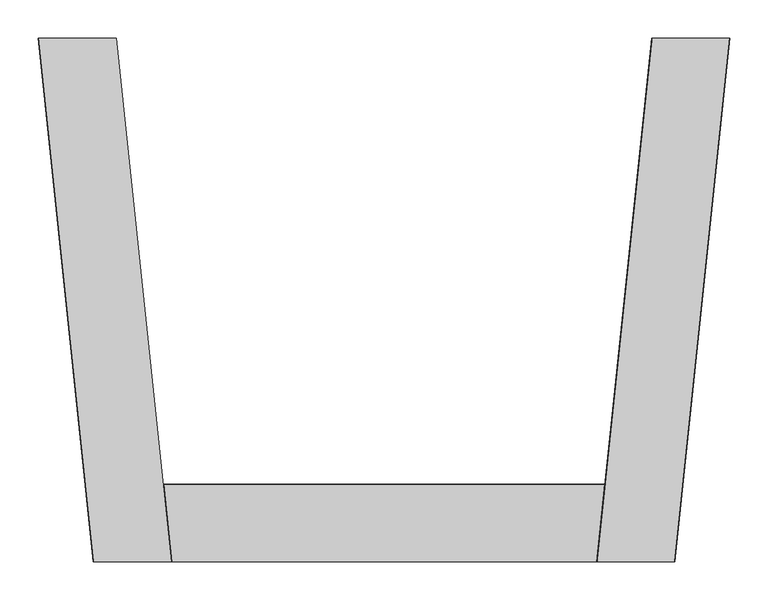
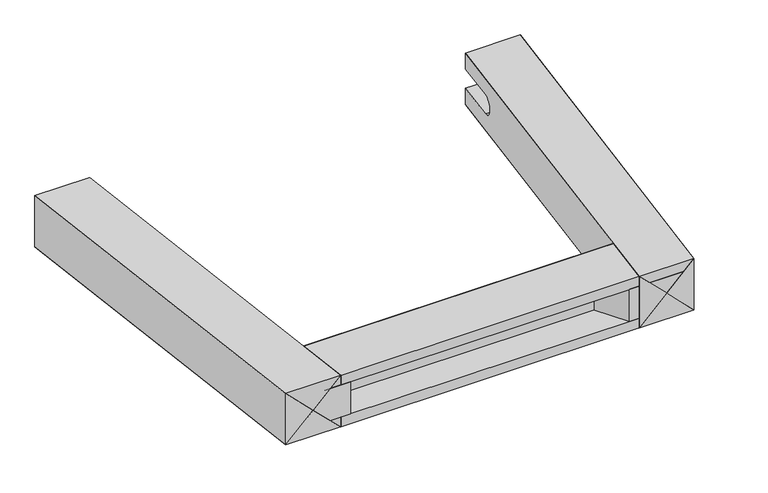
"""IFC4 building model written with IfcOpenShell, lengths in millimetres: proxy geometry, IMPRESS^TABLE 2_30in BASE_TABLE BASE ASSY 48X28X501."""

from ifc_helpers import new_model, si_unit, frame, origin, place, context, project, spatial, polyline, circle_curve, ellipse_curve, outline, extrude, faceted_brep, source, transform, mapped, element, save
from ifc_brep_helpers import plane_surface, revolved_surface, advanced_brep


def generic_models_6bebf737(model_context):
    return source(origin(), model_context, "Body", "SolidModel", [
        faceted_brep([(-350.9208433, 685.8, -50.8), (-402.0006639, 685.8, 0.0), (-329.9201794, 0.0, 0.0), (-278.8403588, 0.0, -50.8), (-381.0, 0.0, -50.8), (-453.0804845, 685.8, -50.8)], [[[0, 1, 2, 3]], [[3, 2, 4]], [[1, 5, 4, 2]], [[1, 0, 5]], [[3, 4, 5, 0]]]),
        faceted_brep([(-381.0, 0.0, 50.8), (-329.9201794, 0.0, 0.0), (-402.0006639, 685.8, 0.0), (-453.0804845, 685.8, 50.8), (-453.0804845, 685.8, -50.8), (-381.0, 0.0, -50.8)], [[[0, 1, 2, 3]], [[3, 2, 4]], [[1, 5, 4, 2]], [[1, 0, 5]], [[5, 0, 3, 4]]]),
        faceted_brep([(-278.8403588, 0.0, 50.8), (-329.9201794, 0.0, 0.0), (-402.0006639, 685.8, 0.0), (-350.9208433, 685.8, 50.8), (-453.0804845, 685.8, 50.8), (-381.0, 0.0, 50.8)], [[[0, 1, 2, 3]], [[3, 2, 4]], [[1, 5, 4, 2]], [[1, 0, 5]], [[5, 0, 3, 4]]]),
        faceted_brep([(453.0804845, 685.8, 50.8), (402.0006639, 685.8, 0.0), (329.9201794, 0.0, 0.0), (381.0, 0.0, 50.8), (381.0, 0.0, -50.8), (453.0804845, 685.8, -50.8)], [[[0, 1, 2, 3]], [[3, 2, 4]], [[1, 5, 4, 2]], [[1, 0, 5]], [[5, 0, 3, 4]]]),
        advanced_brep(
        [(278.8403588, 0.0, 50.8), (329.9201794, 0.0, 0.0), (391.3067179, 584.0538996, 0.0), (374.352343, 604.9908089, 19.05), (382.8457312, 685.8, 19.05), (350.9208433, 685.8, 50.8), (278.8403588, 0.0, -50.8), (350.9208433, 685.8, 19.05), (342.7762728, 608.3095876, 19.05), (342.7762728, 608.3095876, -19.05), (350.9208433, 685.8, -19.05), (350.9208433, 685.8, -50.8), (382.8457312, 685.8, -19.05), (374.352343, 604.9908089, -19.05)],
        [
            (0, 1),
            (1, 2),
            (2, 3, ellipse_curve(frame((393.2979851, 602.9995417, 0.0), z_axis=(-0.7032331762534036, 0.07391278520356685, -0.707106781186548), x_axis=(0.7032331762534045, -0.07391278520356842, -0.707106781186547)), 26.9407684, 19.05)),
            (3, 4),
            (4, 5),
            (5, 0),
            (6, 0),
            (5, 7),
            (7, 8),
            (8, 9, circle_curve(frame((342.7762728, 608.3095876, 0.0), z_axis=(0.9945218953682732, -0.10452846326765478, 0.0), x_axis=(0.0, 0.0, -1.0)), 19.05)),
            (9, 10),
            (10, 11),
            (11, 6),
            (4, 7),
            (10, 12),
            (12, 11),
            (1, 6),
            (12, 13),
            (13, 2, ellipse_curve(frame((393.2979851, 602.9995417, 0.0), z_axis=(-0.7032331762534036, 0.07391278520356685, 0.707106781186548), x_axis=(0.7032331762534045, -0.07391278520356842, 0.707106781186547)), 26.9407684, 19.05)),
            (9, 13),
            (8, 3),
        ],
        [
            plane_surface(frame((356.166446, 644.5850695, 41.275), z_axis=(0.7032331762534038, -0.07391278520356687, 0.7071067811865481), x_axis=(0.7090462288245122, 0.0, -0.7051619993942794))),
            plane_surface(frame((348.2511958, 660.4, 0.0), z_axis=(-0.9945218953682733, 0.10452846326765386, 0.0), x_axis=(-0.10452846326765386, -0.9945218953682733, 0.0))),
            plane_surface(frame((370.0757761, 685.8, 0.0), z_axis=(0.0, 1.0, 0.0), x_axis=(-1.0, 0.0, 0.0))),
            plane_surface(frame((356.166446, 644.5850695, -41.275), z_axis=(0.7032331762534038, -0.07391278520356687, -0.7071067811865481), x_axis=(-0.7090462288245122, 0.0, -0.7051619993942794))),
            plane_surface(frame((342.7762728, 608.3095876, -19.05), z_axis=(0.0, 0.0, 1.0), x_axis=(0.10452846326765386, 0.9945218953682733, 0.0))),
            revolved_surface(polyline([(412.24362722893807, 601.0082744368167, -19.05), (342.7762728, 608.3095876, -19.05)]), (342.7762728, 608.3095876, 0.0), (0.9945218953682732, -0.10452846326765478, 0.0)),
            plane_surface(frame((344.76754, 627.2552297, 19.05), z_axis=(0.0, 0.0, -1.0), x_axis=(-0.10452846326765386, -0.9945218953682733, 0.0))),
            plane_surface(frame((278.8403588, 0.0, 0.0), z_axis=(0.0, -1.0, 0.0), x_axis=(1.0, 0.0, 0.0))),
        ],
        [
            (0, [[1, 2, 3, 4, 5, 6]]),
            (1, [[7, -6, 8, 9, 10, 11, 12, 13]]),
            (2, [[-5, 14, -8]]),
            (2, [[-12, 15, 16]]),
            (3, [[-2, 17, -13, -16, 18, 19]]),
            (4, [[-18, -15, -11, 20]]),
            (5, [[-19, -20, -10, 21, -3]]),
            (6, [[-4, -21, -9, -14]]),
            (7, [[-1, -7, -17]]),
        ],
    ),
        faceted_brep([(278.8403588, 0.0, -50.8), (329.9201794, 0.0, 0.0), (402.0006639, 685.8, 0.0), (350.9208433, 685.8, -50.8), (453.0804845, 685.8, -50.8), (381.0, 0.0, -50.8)], [[[0, 1, 2, 3]], [[3, 2, 4]], [[1, 5, 4, 2]], [[1, 0, 5]], [[0, 3, 4, 5]]]),
        extrude(outline(polyline([(260.2450673, 0.0), (227.2494994, 57.15), (-227.2494994, 57.15), (-260.2450673, 0.0), (-361.8450673, 0.0), (-370.5214219, 82.55), (370.5214219, 82.55), (361.8450673, 0.0), (260.2450673, 0.0)])), frame((0.0, 0.0, -31.75), z_axis=(0.0, 0.0, 1.0), x_axis=(1.0, 0.0, 0.0)), (0.0, 0.0, 1.0), 63.5),
        advanced_brep(
        [(-278.8403588, 0.0, -50.8), (-329.9201794, 0.0, 0.0), (-391.3067179, 584.0538996, 0.0), (-374.352343, 604.9908089, -19.05), (-382.8457312, 685.8, -19.05), (-350.9208433, 685.8, -50.8), (-278.8403588, 0.0, 50.8), (-350.9208433, 685.8, -19.05), (-342.7762728, 608.3095876, -19.05), (-342.7762728, 608.3095876, 19.05), (-350.9208433, 685.8, 19.05), (-350.9208433, 685.8, 50.8), (-382.8457312, 685.8, 19.05), (-374.352343, 604.9908089, 19.05)],
        [
            (0, 1),
            (1, 2),
            (2, 3, ellipse_curve(frame((-393.2979851, 602.9995417, 0.0), z_axis=(0.7032331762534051, 0.07391278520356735, 0.7071067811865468), x_axis=(-0.7032331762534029, -0.0739127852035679, 0.7071067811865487)), 26.9407684, 19.05)),
            (3, 4),
            (4, 5),
            (5, 0),
            (6, 0),
            (5, 7),
            (7, 8),
            (8, 9, circle_curve(frame((-342.7762728, 608.3095876, 0.0), z_axis=(-0.9945218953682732, -0.10452846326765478, 0.0), x_axis=(0.0, 0.0, 1.0)), 19.05)),
            (9, 10),
            (10, 11),
            (11, 6),
            (10, 12),
            (12, 11),
            (4, 7),
            (1, 6),
            (12, 13),
            (13, 2, ellipse_curve(frame((-393.2979851, 602.9995417, 0.0), z_axis=(0.7032331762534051, 0.07391278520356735, -0.7071067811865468), x_axis=(-0.7032331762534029, -0.0739127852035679, -0.7071067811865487)), 26.9407684, 19.05)),
            (9, 13),
            (8, 3),
        ],
        [
            plane_surface(frame((-359.1075918, 672.5682031, -41.275), z_axis=(-0.7032331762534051, -0.07391278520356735, -0.7071067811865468), x_axis=(-0.7090462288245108, 0.0, 0.7051619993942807))),
            plane_surface(frame((-348.2511958, 660.4, 0.0), z_axis=(0.9945218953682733, 0.10452846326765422, 0.0), x_axis=(-0.10452846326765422, 0.9945218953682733, 0.0))),
            plane_surface(frame((-350.9208433, 685.8, 0.0), z_axis=(0.0, 1.0, 0.0), x_axis=(-1.0, 0.0, 0.0))),
            plane_surface(frame((-359.1075918, 672.5682031, 41.275), z_axis=(-0.7032331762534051, -0.07391278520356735, 0.7071067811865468), x_axis=(0.7090462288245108, 0.0, 0.7051619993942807))),
            plane_surface(frame((-342.7762728, 608.3095876, 19.05), z_axis=(0.0, 0.0, -1.0), x_axis=(-0.10452846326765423, 0.9945218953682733, 0.0))),
            revolved_surface(polyline([(-412.24362722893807, 601.0082744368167, 19.05), (-342.7762728, 608.3095876, 19.05)]), (-342.7762728, 608.3095876, 0.0), (-0.9945218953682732, -0.10452846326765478, 0.0)),
            plane_surface(frame((-344.76754, 627.2552297, -19.05), z_axis=(0.0, 0.0, 1.0), x_axis=(0.10452846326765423, -0.9945218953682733, 0.0))),
            plane_surface(frame((-297.9952915, 0.0, 0.0), z_axis=(0.0, -1.0, 0.0), x_axis=(1.0, 0.0, 0.0))),
        ],
        [
            (0, [[1, 2, 3, 4, 5, 6]]),
            (1, [[7, -6, 8, 9, 10, 11, 12, 13]]),
            (2, [[-12, 14, 15]]),
            (2, [[-5, 16, -8]]),
            (3, [[-2, 17, -13, -15, 18, 19]]),
            (4, [[-18, -14, -11, 20]]),
            (5, [[-19, -20, -10, 21, -3]]),
            (6, [[-4, -21, -9, -16]]),
            (7, [[-1, -7, -17]]),
        ],
    ),
        extrude(outline(polyline([(82.9112708, 19.05), (102.0662035, 0.0), (-0.0934377, 0.0), (-0.0934377, 19.05), (82.9112708, 19.05)])), frame((-278.8403588, 0.0, -50.8), z_axis=(0.9945218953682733, 0.10452846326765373, 0.0), x_axis=(-0.10452846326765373, 0.9945218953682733, 0.0)), (0.0, 0.0, 1.0), 0.889),
        faceted_brep([(286.6228166, 82.55, -31.75), (288.6250522, 101.6, -50.8), (-288.6250522, 101.6, -50.8), (-286.6228166, 82.55, -31.75), (-277.9464619, 0.0, -31.75), (277.9464619, 0.0, -31.75), (277.9464619, 0.0, -50.8), (-277.9464619, 0.0, -50.8)], [[[0, 1, 2, 3]], [[0, 3, 4, 5]], [[1, 0, 5, 6]], [[3, 2, 7, 4]], [[7, 6, 5, 4]], [[6, 7, 2, 1]]]),
        extrude(outline(polyline([(0.0934377, 0.0), (19.2483704, 19.05), (102.2530789, 19.05), (102.2530789, 0.0), (0.0934377, 0.0)])), frame((289.5189491, 101.6, -50.8), z_axis=(-0.9945218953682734, 0.10452846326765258, 0.0), x_axis=(-0.10452846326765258, -0.9945218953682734, 0.0)), (0.0, 0.0, 1.0), 0.889),
        faceted_brep([(-288.6250522, 101.6, 50.8), (-283.2857571, 50.8, 0.0), (283.2857571, 50.8, 0.0), (288.6250522, 101.6, 50.8), (288.6250522, 101.6, -50.8), (-288.6250522, 101.6, -50.8)], [[[0, 1, 2, 3]], [[3, 2, 4]], [[1, 5, 4, 2]], [[5, 0, 3, 4]], [[1, 0, 5]]]),
        extrude(outline(polyline([(102.0662035, 0.0), (82.9112708, -19.05), (-0.0934377, -19.05), (-0.0934377, 0.0), (102.0662035, 0.0)])), frame((-278.8403588, 0.0, 50.8), z_axis=(0.9945218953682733, 0.10452846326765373, 0.0), x_axis=(-0.10452846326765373, 0.9945218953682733, 0.0)), (0.0, 0.0, 1.0), 0.889),
        faceted_brep([(288.6250522, 101.6, 50.8), (286.6228166, 82.55, 31.75), (-286.6228166, 82.55, 31.75), (-288.6250522, 101.6, 50.8), (277.9464619, 0.0, 31.75), (-277.9464619, 0.0, 31.75), (277.9464619, 0.0, 50.8), (-277.9464619, 0.0, 50.8)], [[[0, 1, 2, 3]], [[2, 1, 4, 5]], [[1, 0, 6, 4]], [[3, 2, 5, 7]], [[6, 7, 5, 4]], [[7, 6, 0, 3]]]),
        extrude(outline(polyline([(19.2483704, -19.05), (0.0934377, 0.0), (102.2530789, 0.0), (102.2530789, -19.05), (19.2483704, -19.05)])), frame((289.5189491, 101.6, 50.8), z_axis=(-0.9945218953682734, 0.10452846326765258, 0.0), x_axis=(-0.10452846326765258, -0.9945218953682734, 0.0)), (0.0, 0.0, 1.0), 0.889),
        faceted_brep([(350.9208433, 685.8, 50.8), (402.0006639, 685.8, 0.0), (329.9201794, 0.0, 0.0), (278.8403588, 0.0, 50.8), (381.0, 0.0, 50.8), (453.0804845, 685.8, 50.8)], [[[0, 1, 2, 3]], [[3, 2, 4]], [[1, 5, 4, 2]], [[1, 0, 5]], [[0, 3, 4, 5]]]),
    ])


if __name__ == "__main__":
    model = new_model("IFC4")
    model_context = context("Model", 3, world=origin())
    ifc_project = project(units=[si_unit("LENGTHUNIT", "METRE", prefix="MILLI")], contexts=[model_context])
    site = spatial("IfcSite", under=ifc_project)
    building = spatial("IfcBuilding", under=site)
    placement = place(None, origin())
    generic_models_shape = generic_models_6bebf737(model_context)
    element("IfcBuildingElementProxy", 1, Name="IMPRESS^TABLE 2_30in BASE_TABLE BASE ASSY 48X28X501", ObjectType="IMPRESS^TABLE 2_30in BASE_TABLE BASE ASSY 48X28X501", at=placement, inside=building, context=model_context, shape_type="MappedRepresentation", body=[
        mapped(generic_models_shape, transform((0.0, 0.0, 0.0), x_axis=(1.0, 0.0, 0.0), y_axis=(0.0, 1.0, 0.0), z_axis=(0.0, 0.0, 1.0))),
    ])
    save(model, "model.ifc")
